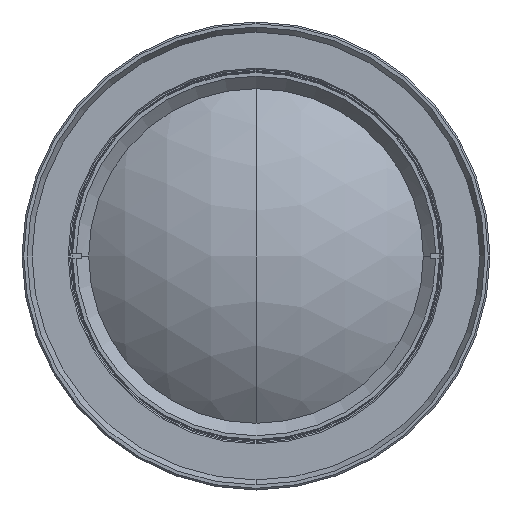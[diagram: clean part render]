
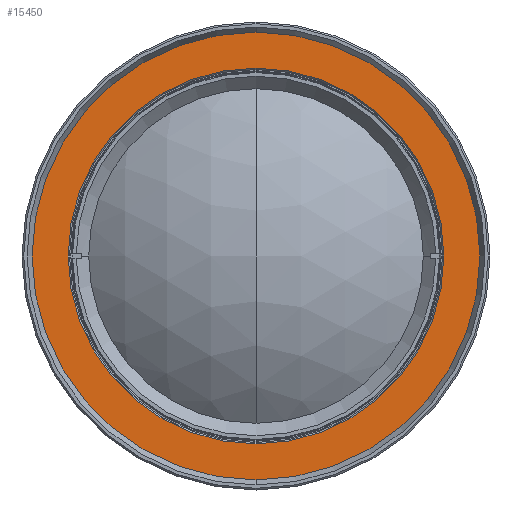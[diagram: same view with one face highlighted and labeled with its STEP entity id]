
A CAD part, front view. The second image highlights one B-rep face of the part: STEP entity #15450.
In plain terms, the highlighted planar face has unit normal (0, -1, 0).
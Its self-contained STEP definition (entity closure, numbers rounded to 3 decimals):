
#821 = CARTESIAN_POINT ( 'NONE',  ( 0., -65.718, -33.25 ) ) ;
#938 = AXIS2_PLACEMENT_3D ( 'NONE', #22129, #34415, #16147 ) ;
#1567 = DIRECTION ( 'NONE',  ( 0., 0., -1. ) ) ;
#2993 = AXIS2_PLACEMENT_3D ( 'NONE', #29674, #11382, #32732 ) ;
#4034 = CARTESIAN_POINT ( 'NONE',  ( 0., -65.718, 0. ) ) ;
#4149 = DIRECTION ( 'NONE',  ( 0., -1., 0. ) ) ;
#7130 = DIRECTION ( 'NONE',  ( 0., 0., -1. ) ) ;
#8559 = CIRCLE ( 'NONE', #32670, 27.9 ) ;
#9089 = VERTEX_POINT ( 'NONE', #25596 ) ;
#9611 = AXIS2_PLACEMENT_3D ( 'NONE', #4034, #25360, #7130 ) ;
#11382 = DIRECTION ( 'NONE',  ( 0., -1., 0. ) ) ;
#11558 = CIRCLE ( 'NONE', #21983, 33.25 ) ;
#13261 = VERTEX_POINT ( 'NONE', #821 ) ;
#14477 = ORIENTED_EDGE ( 'NONE', *, *, #25307, .T. ) ;
#15450 = ADVANCED_FACE ( 'NONE', ( #26873, #33059 ), #31371, .T. ) ;
#16147 = DIRECTION ( 'NONE',  ( 0., 0., -1. ) ) ;
#17374 = ORIENTED_EDGE ( 'NONE', *, *, #22935, .T. ) ;
#19748 = DIRECTION ( 'NONE',  ( 0., -1., 0. ) ) ;
#20736 = EDGE_LOOP ( 'NONE', ( #17374, #14477 ) ) ;
#21983 = AXIS2_PLACEMENT_3D ( 'NONE', #38074, #19748, #1567 ) ;
#22129 = CARTESIAN_POINT ( 'NONE',  ( 0., -65.718, 27.9 ) ) ;
#22360 = CARTESIAN_POINT ( 'NONE',  ( 0., -65.718, 0. ) ) ;
#22935 = EDGE_CURVE ( 'NONE', #13261, #34325, #11558, .T. ) ;
#25307 = EDGE_CURVE ( 'NONE', #34325, #13261, #39272, .T. ) ;
#25360 = DIRECTION ( 'NONE',  ( 0., -1., 0. ) ) ;
#25458 = DIRECTION ( 'NONE',  ( 0., 0., -1. ) ) ;
#25596 = CARTESIAN_POINT ( 'NONE',  ( 0., -65.718, -27.9 ) ) ;
#26873 = FACE_OUTER_BOUND ( 'NONE', #20736, .T. ) ;
#27034 = EDGE_LOOP ( 'NONE', ( #27152, #31209 ) ) ;
#27152 = ORIENTED_EDGE ( 'NONE', *, *, #37815, .F. ) ;
#29674 = CARTESIAN_POINT ( 'NONE',  ( 0., -65.718, 0. ) ) ;
#30419 = CARTESIAN_POINT ( 'NONE',  ( 0., -65.718, 33.25 ) ) ;
#30468 = CARTESIAN_POINT ( 'NONE',  ( 0., -65.718, 27.9 ) ) ;
#31209 = ORIENTED_EDGE ( 'NONE', *, *, #37235, .F. ) ;
#31371 = PLANE ( 'NONE',  #938 ) ;
#32670 = AXIS2_PLACEMENT_3D ( 'NONE', #22360, #4149, #25458 ) ;
#32732 = DIRECTION ( 'NONE',  ( 0., 0., -1. ) ) ;
#33059 = FACE_BOUND ( 'NONE', #27034, .T. ) ;
#34325 = VERTEX_POINT ( 'NONE', #30419 ) ;
#34415 = DIRECTION ( 'NONE',  ( 0., -1., 0. ) ) ;
#36291 = CIRCLE ( 'NONE', #2993, 27.9 ) ;
#37235 = EDGE_CURVE ( 'NONE', #37359, #9089, #36291, .T. ) ;
#37359 = VERTEX_POINT ( 'NONE', #30468 ) ;
#37815 = EDGE_CURVE ( 'NONE', #9089, #37359, #8559, .T. ) ;
#38074 = CARTESIAN_POINT ( 'NONE',  ( 0., -65.718, 0. ) ) ;
#39272 = CIRCLE ( 'NONE', #9611, 33.25 ) ;
